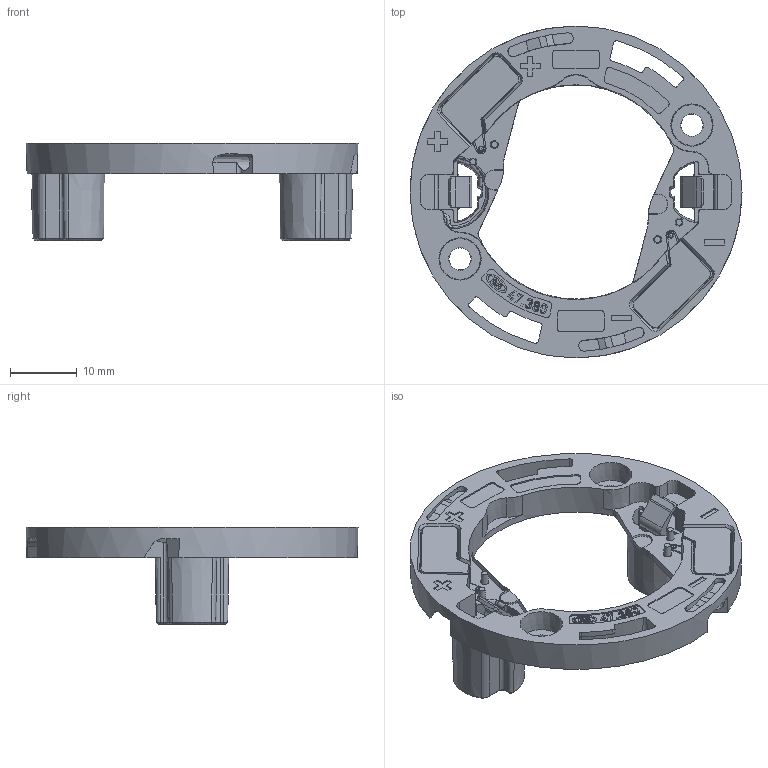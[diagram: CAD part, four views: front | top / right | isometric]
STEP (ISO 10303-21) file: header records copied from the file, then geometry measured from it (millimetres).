
FILE_DESCRIPTION(/* description */ ('Unknown'),/* implementation_level */ '2;1');
FILE_NAME(/* name */ '025-703-03',/* time_stamp */ '2026-02-17T13:32:35+01:00',/* author */ ('Unknown'),/* organization */ ('Unknown'),/* preprocessor_version */ 'ST-DEVELOPER v16.7',/* originating_system */ 'Solid Edge',/* authorisation */ 'Unknown');
FILE_SCHEMA (('AUTOMOTIVE_DESIGN {1 0 10303 214 3 1 1}'));
Length unit declared in the file: millimetre
Products named in the file (1): 025-703-03
Bounding box: 49.6 x 49.6 x 14.5 mm (x, y, z)
Volume: 5054.8 mm3; surface area: 5953.3 mm2
Topology: 1 solids, 5 shells, 750 faces, 2044 edges, 1320 vertices
Faces by surface type: plane 443, cone 144, cylinder 104, bspline 36, torus 21, sphere 2
Full cylindrical faces by diameter (mm): 1.2 x2, 2.3 x2
Entity records: 29524 total; most frequent: CARTESIAN_POINT 5534, ORIENTED_EDGE 3964, DIRECTION 3786, EDGE_CURVE 1982, VERTEX_POINT 1300, AXIS2_PLACEMENT_3D 1266, LINE 1254, VECTOR 1254
